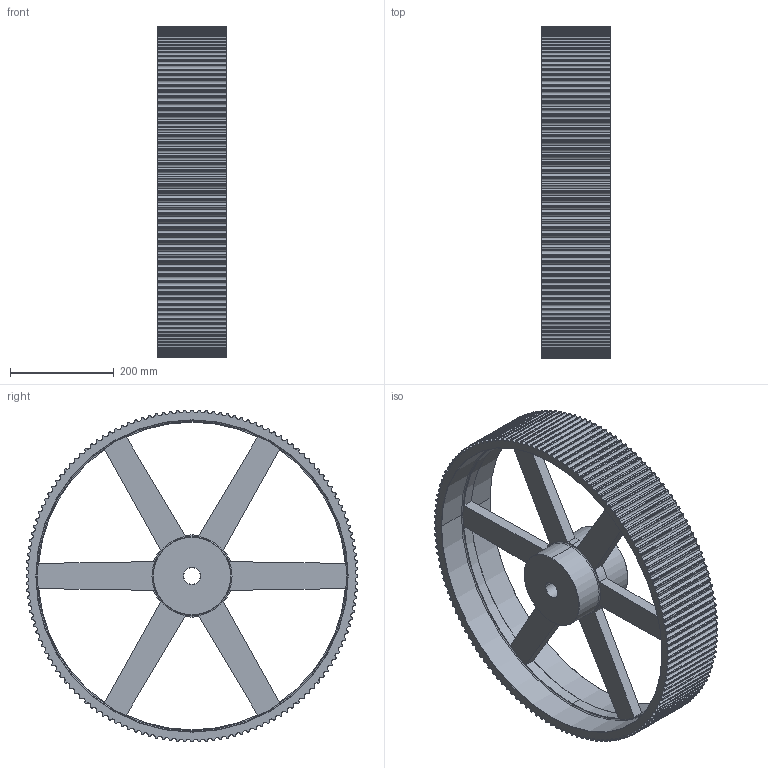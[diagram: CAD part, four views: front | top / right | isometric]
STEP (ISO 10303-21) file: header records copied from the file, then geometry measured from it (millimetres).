
FILE_DESCRIPTION(('STEP AP214'),'1');
FILE_NAME('144_-_14_m_115.stp','2018-10-10T13:28:51',('TraceParts'),('TraceParts S.A.'),'Spatial InterOp 3D',' ',' ');
FILE_SCHEMA(('automotive_design'));
Length unit declared in the file: millimetre
Products named in the file (1): 144_-_14_m_115
Bounding box: 133 x 638.92 x 638.92 mm (x, y, z)
Volume: 8117196.9 mm3; surface area: 974057.2 mm2
Topology: 1 solids, 1 shells, 784 faces, 2322 edges, 1544 vertices
Faces by surface type: cylinder 746, plane 18, cone 12, torus 8
Entity records: 27201 total; most frequent: DIRECTION 5420, CARTESIAN_POINT 4651, ORIENTED_EDGE 4644, EDGE_CURVE 2322, AXIS2_PLACEMENT_3D 2313, VERTEX_POINT 1544, CIRCLE 1528, EDGE_LOOP 802
